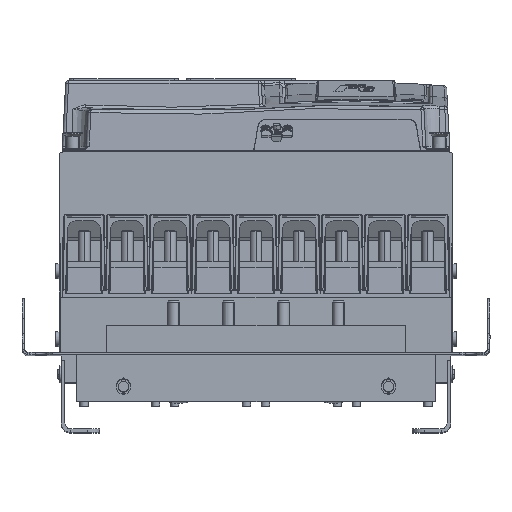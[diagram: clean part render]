
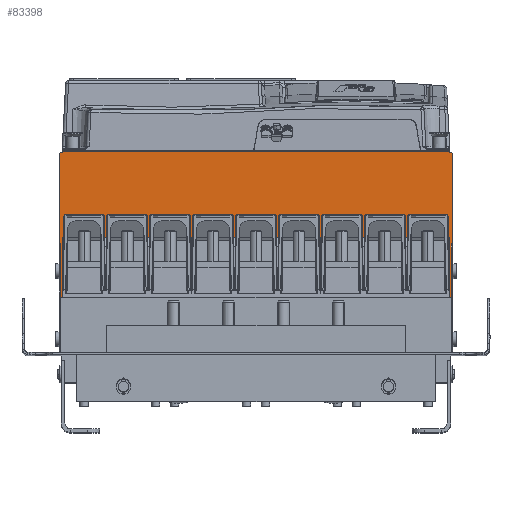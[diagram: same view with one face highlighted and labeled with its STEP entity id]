
A CAD part, top view. The second image highlights one B-rep face of the part: STEP entity #83398.
In plain terms, the highlighted planar face has unit normal (0, 0, 1).
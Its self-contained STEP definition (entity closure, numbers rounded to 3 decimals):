
#4424 = EDGE_CURVE ( 'NONE', #90405, #90155, #105575, .T. ) ;
#7067 = CARTESIAN_POINT ( 'NONE',  ( 163.5, -167.9, 453. ) ) ;
#9913 = LINE ( 'NONE', #36102, #110169 ) ;
#11389 = CARTESIAN_POINT ( 'NONE',  ( 0., -167.9, 453. ) ) ;
#11588 = DIRECTION ( 'NONE',  ( 0., 1., 0. ) ) ;
#12899 = CARTESIAN_POINT ( 'NONE',  ( 161.5, 0., 453. ) ) ;
#13169 = EDGE_CURVE ( 'NONE', #34965, #112134, #31972, .T. ) ;
#14516 = VERTEX_POINT ( 'NONE', #21624 ) ;
#15035 = DIRECTION ( 'NONE',  ( 1., 0., 0. ) ) ;
#15449 = ORIENTED_EDGE ( 'NONE', *, *, #24700, .T. ) ;
#19321 = CARTESIAN_POINT ( 'NONE',  ( -163.5, -77., 453. ) ) ;
#19541 = DIRECTION ( 'NONE',  ( 0., 0., -1. ) ) ;
#21096 = EDGE_CURVE ( 'NONE', #78943, #40382, #68604, .T. ) ;
#21277 = EDGE_CURVE ( 'NONE', #78943, #90405, #25723, .T. ) ;
#21624 = CARTESIAN_POINT ( 'NONE',  ( -163.5, -167.9, 453. ) ) ;
#23617 = CARTESIAN_POINT ( 'NONE',  ( -165.001, -77., 453. ) ) ;
#24084 = DIRECTION ( 'NONE',  ( 0., 0., -1. ) ) ;
#24700 = EDGE_CURVE ( 'NONE', #40382, #89317, #101340, .T. ) ;
#24853 = EDGE_CURVE ( 'NONE', #90155, #92549, #44457, .T. ) ;
#25723 = CIRCLE ( 'NONE', #89224, 3.5 ) ;
#27669 = EDGE_CURVE ( 'NONE', #14516, #89317, #9913, .T. ) ;
#29530 = CARTESIAN_POINT ( 'NONE',  ( 165., -3.5, 453. ) ) ;
#30011 = DIRECTION ( 'NONE',  ( 0., 0., -1. ) ) ;
#31737 = CARTESIAN_POINT ( 'NONE',  ( 165., -77., 453. ) ) ;
#31972 = LINE ( 'NONE', #66510, #44185 ) ;
#34200 = EDGE_CURVE ( 'NONE', #112134, #97661, #55784, .T. ) ;
#34589 = EDGE_CURVE ( 'NONE', #97661, #14516, #39235, .T. ) ;
#34600 = ORIENTED_EDGE ( 'NONE', *, *, #13169, .F. ) ;
#34965 = VERTEX_POINT ( 'NONE', #31737 ) ;
#36102 = CARTESIAN_POINT ( 'NONE',  ( -163.5, 0., 453. ) ) ;
#37950 = CARTESIAN_POINT ( 'NONE',  ( -161.5, -3.5, 453. ) ) ;
#38368 = ORIENTED_EDGE ( 'NONE', *, *, #24853, .F. ) ;
#39042 = ORIENTED_EDGE ( 'NONE', *, *, #4424, .F. ) ;
#39235 = LINE ( 'NONE', #11389, #76745 ) ;
#39446 = ORIENTED_EDGE ( 'NONE', *, *, #34589, .F. ) ;
#40382 = VERTEX_POINT ( 'NONE', #103755 ) ;
#44185 = VECTOR ( 'NONE', #59659, 1000. ) ;
#44457 = CIRCLE ( 'NONE', #73228, 3.5 ) ;
#45383 = DIRECTION ( 'NONE',  ( 1., 0., 0. ) ) ;
#46486 = LINE ( 'NONE', #29530, #74457 ) ;
#46730 = CARTESIAN_POINT ( 'NONE',  ( 163.5, 0., 453. ) ) ;
#47976 = CARTESIAN_POINT ( 'NONE',  ( -161.5, 0., 453. ) ) ;
#54668 = DIRECTION ( 'NONE',  ( 0., -1., 0. ) ) ;
#55784 = LINE ( 'NONE', #46730, #73099 ) ;
#58642 = DIRECTION ( 'NONE',  ( 0., 1., 0. ) ) ;
#59659 = DIRECTION ( 'NONE',  ( -1., 0., 0. ) ) ;
#60226 = ORIENTED_EDGE ( 'NONE', *, *, #21096, .T. ) ;
#60233 = ORIENTED_EDGE ( 'NONE', *, *, #105828, .T. ) ;
#65122 = DIRECTION ( 'NONE',  ( 0., 1., 0. ) ) ;
#66510 = CARTESIAN_POINT ( 'NONE',  ( 165.001, -77., 453. ) ) ;
#66985 = CARTESIAN_POINT ( 'NONE',  ( -165., -3.5, 453. ) ) ;
#67171 = FACE_OUTER_BOUND ( 'NONE', #105183, .T. ) ;
#68604 = LINE ( 'NONE', #76571, #89153 ) ;
#69315 = ORIENTED_EDGE ( 'NONE', *, *, #21277, .F. ) ;
#73099 = VECTOR ( 'NONE', #54668, 1000. ) ;
#73228 = AXIS2_PLACEMENT_3D ( 'NONE', #89345, #19541, #97288 ) ;
#73828 = DIRECTION ( 'NONE',  ( -1., 0., 0. ) ) ;
#74457 = VECTOR ( 'NONE', #105555, 1000. ) ;
#75876 = VECTOR ( 'NONE', #45383, 1000. ) ;
#76571 = CARTESIAN_POINT ( 'NONE',  ( -165., -3.5, 453. ) ) ;
#76745 = VECTOR ( 'NONE', #73828, 1000. ) ;
#77119 = DIRECTION ( 'NONE',  ( 0., -1., 0. ) ) ;
#78943 = VERTEX_POINT ( 'NONE', #66985 ) ;
#80211 = CARTESIAN_POINT ( 'NONE',  ( 163.5, -77., 453. ) ) ;
#81035 = ORIENTED_EDGE ( 'NONE', *, *, #34200, .F. ) ;
#83398 = ADVANCED_FACE ( 'NONE', ( #67171 ), #84772, .F. ) ;
#84335 = VECTOR ( 'NONE', #15035, 1000. ) ;
#84772 = PLANE ( 'NONE',  #105949 ) ;
#89153 = VECTOR ( 'NONE', #77119, 1000. ) ;
#89224 = AXIS2_PLACEMENT_3D ( 'NONE', #37950, #30011, #65122 ) ;
#89317 = VERTEX_POINT ( 'NONE', #19321 ) ;
#89345 = CARTESIAN_POINT ( 'NONE',  ( 161.5, -3.5, 453. ) ) ;
#90155 = VERTEX_POINT ( 'NONE', #12899 ) ;
#90405 = VERTEX_POINT ( 'NONE', #47976 ) ;
#92549 = VERTEX_POINT ( 'NONE', #97989 ) ;
#97054 = CARTESIAN_POINT ( 'NONE',  ( 0., 0., 453. ) ) ;
#97288 = DIRECTION ( 'NONE',  ( 0., 1., 0. ) ) ;
#97661 = VERTEX_POINT ( 'NONE', #7067 ) ;
#97989 = CARTESIAN_POINT ( 'NONE',  ( 165., -3.5, 453. ) ) ;
#101340 = LINE ( 'NONE', #23617, #84335 ) ;
#101800 = CARTESIAN_POINT ( 'NONE',  ( 0., 0., 453. ) ) ;
#103755 = CARTESIAN_POINT ( 'NONE',  ( -165., -77., 453. ) ) ;
#105183 = EDGE_LOOP ( 'NONE', ( #69315, #60226, #15449, #110986, #39446, #81035, #34600, #60233, #38368, #39042 ) ) ;
#105555 = DIRECTION ( 'NONE',  ( 0., 1., 0. ) ) ;
#105575 = LINE ( 'NONE', #97054, #75876 ) ;
#105828 = EDGE_CURVE ( 'NONE', #34965, #92549, #46486, .T. ) ;
#105949 = AXIS2_PLACEMENT_3D ( 'NONE', #101800, #24084, #58642 ) ;
#110169 = VECTOR ( 'NONE', #11588, 1000. ) ;
#110986 = ORIENTED_EDGE ( 'NONE', *, *, #27669, .F. ) ;
#112134 = VERTEX_POINT ( 'NONE', #80211 ) ;
